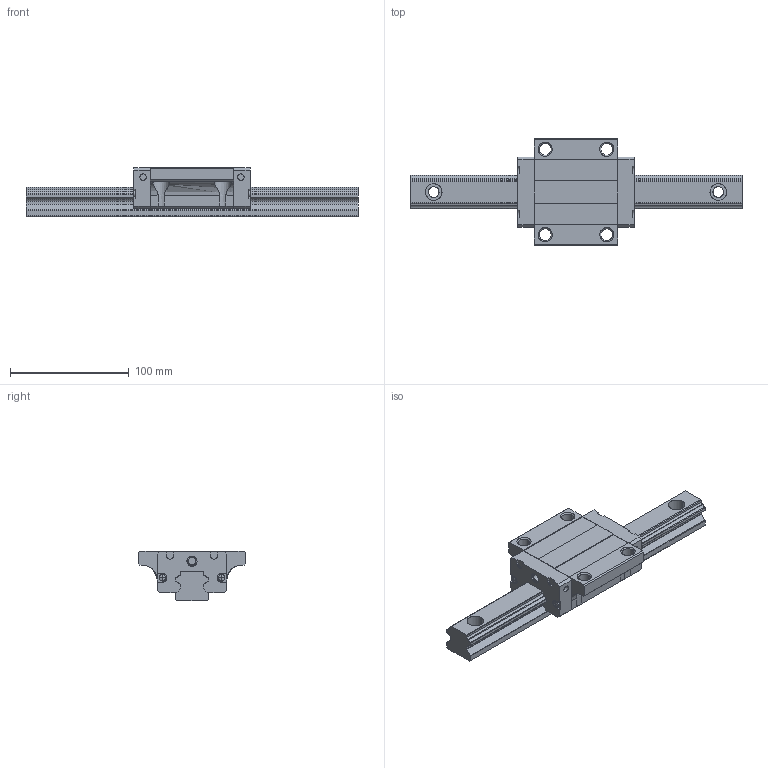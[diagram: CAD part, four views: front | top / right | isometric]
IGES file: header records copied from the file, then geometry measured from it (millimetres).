
Start section: START RECORD GO HERE.
Global section: file name: SBG30_FL.igs; native system: IBM CATIA IGES - CATIA Version 5 Release 16 ; preprocessor: CATIA Version 5 Release 16 ; author: mycom; organization: RD03; date: 20070318.144650; units: millimetre
Bounding box: 280 x 90 x 42 mm (x, y, z)
Surface area: 74296.1 mm2 (no closed solid volume)
Topology: 0 solids, 0 shells, 328 faces, 1780 edges, 1772 vertices
Faces by surface type: revolution 188, plane 140
